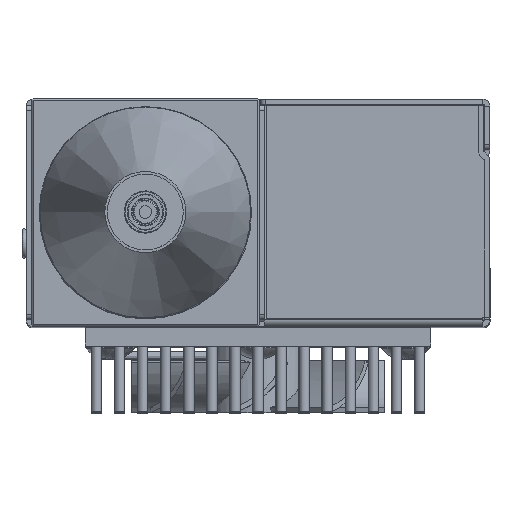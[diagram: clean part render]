
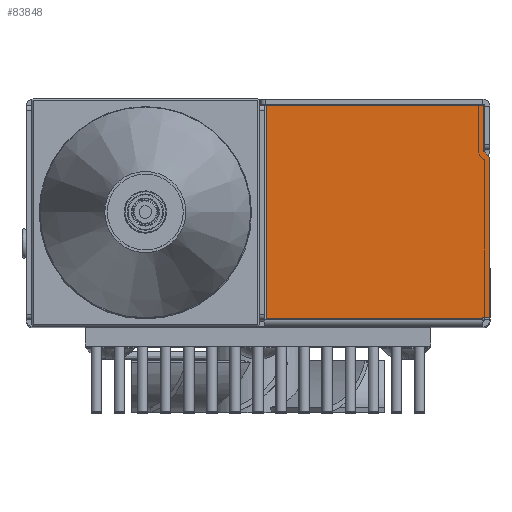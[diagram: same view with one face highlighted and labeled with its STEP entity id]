
A CAD part, top view. The second image highlights one B-rep face of the part: STEP entity #83848.
In plain terms, the highlighted planar face has unit normal (0, 0, 1).
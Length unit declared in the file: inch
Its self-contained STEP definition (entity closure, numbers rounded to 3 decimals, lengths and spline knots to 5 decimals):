
#2050 = LINE ( 'NONE', #47814, #83330 ) ;
#4127 = EDGE_CURVE ( 'NONE', #88291, #85200, #42036, .T. ) ;
#7247 = LINE ( 'NONE', #75378, #54759 ) ;
#7338 = VERTEX_POINT ( 'NONE', #79041 ) ;
#8069 = EDGE_CURVE ( 'NONE', #75909, #7338, #18427, .T. ) ;
#8612 = CARTESIAN_POINT ( 'NONE',  ( 2.0025, 0.3125, 0.05118 ) ) ;
#9313 = EDGE_CURVE ( 'NONE', #98248, #83296, #32963, .T. ) ;
#12506 = DIRECTION ( 'NONE',  ( 0., -1., 0. ) ) ;
#14499 = DIRECTION ( 'NONE',  ( -1., 0., 0. ) ) ;
#16874 = ORIENTED_EDGE ( 'NONE', *, *, #4127, .T. ) ;
#17083 = EDGE_CURVE ( 'NONE', #86913, #84553, #61911, .T. ) ;
#18105 = AXIS2_PLACEMENT_3D ( 'NONE', #97545, #66734, #14499 ) ;
#18427 = CIRCLE ( 'NONE', #26300, 0.041 ) ;
#19044 = ORIENTED_EDGE ( 'NONE', *, *, #66335, .F. ) ;
#19380 = VECTOR ( 'NONE', #25113, 39.37008 ) ;
#21413 = LINE ( 'NONE', #32181, #45541 ) ;
#23715 = VECTOR ( 'NONE', #72362, 39.37008 ) ;
#25113 = DIRECTION ( 'NONE',  ( 1., 0., 0. ) ) ;
#25974 = CARTESIAN_POINT ( 'NONE',  ( 2.04322, 0.6435, 0.05118 ) ) ;
#26300 = AXIS2_PLACEMENT_3D ( 'NONE', #8612, #38965, #69299 ) ;
#27617 = CARTESIAN_POINT ( 'NONE',  ( 2.00201, -0.6335, 0.05118 ) ) ;
#28156 = EDGE_CURVE ( 'NONE', #83296, #37208, #60971, .T. ) ;
#30063 = LINE ( 'NONE', #82735, #30957 ) ;
#30632 = EDGE_CURVE ( 'NONE', #98248, #48328, #7247, .T. ) ;
#30704 = CARTESIAN_POINT ( 'NONE',  ( 0.7165, -0.6335, 0.05118 ) ) ;
#30957 = VECTOR ( 'NONE', #59392, 39.37008 ) ;
#32181 = CARTESIAN_POINT ( 'NONE',  ( 0.7165, -0.6335, 0.05118 ) ) ;
#32411 = CARTESIAN_POINT ( 'NONE',  ( 2.0315, 0.3415, 0.05118 ) ) ;
#32896 = DIRECTION ( 'NONE',  ( 0., -1., 0. ) ) ;
#32963 = LINE ( 'NONE', #70258, #75817 ) ;
#33255 = CARTESIAN_POINT ( 'NONE',  ( 2.0075, 0.36963, 0.05118 ) ) ;
#35270 = CARTESIAN_POINT ( 'NONE',  ( 2.0075, 0.6385, 0.05118 ) ) ;
#35922 = EDGE_CURVE ( 'NONE', #86913, #85200, #2050, .T. ) ;
#37208 = VERTEX_POINT ( 'NONE', #84385 ) ;
#37593 = DIRECTION ( 'NONE',  ( -1., 0., 0. ) ) ;
#38068 = CARTESIAN_POINT ( 'NONE',  ( 2.0435, -0.61815, 0.05118 ) ) ;
#38965 = DIRECTION ( 'NONE',  ( 0., 0., -1. ) ) ;
#40194 = EDGE_CURVE ( 'NONE', #7338, #84553, #57283, .T. ) ;
#42036 = LINE ( 'NONE', #27617, #23715 ) ;
#42351 = ORIENTED_EDGE ( 'NONE', *, *, #8069, .F. ) ;
#45541 = VECTOR ( 'NONE', #46135, 39.37008 ) ;
#46135 = DIRECTION ( 'NONE',  ( 0., 1., 0. ) ) ;
#46240 = EDGE_CURVE ( 'NONE', #88291, #48328, #21413, .T. ) ;
#46358 = ORIENTED_EDGE ( 'NONE', *, *, #28156, .F. ) ;
#47814 = CARTESIAN_POINT ( 'NONE',  ( 2.00201, 0.6435, 0.05118 ) ) ;
#48328 = VERTEX_POINT ( 'NONE', #71229 ) ;
#48929 = VECTOR ( 'NONE', #12506, 39.37008 ) ;
#51334 = ORIENTED_EDGE ( 'NONE', *, *, #35922, .F. ) ;
#52561 = CARTESIAN_POINT ( 'NONE',  ( 2.00201, -0.61815, 0.05118 ) ) ;
#54394 = ORIENTED_EDGE ( 'NONE', *, *, #9313, .F. ) ;
#54759 = VECTOR ( 'NONE', #37593, 39.37008 ) ;
#57283 = LINE ( 'NONE', #25974, #48929 ) ;
#59392 = DIRECTION ( 'NONE',  ( 0.707, -0.707, 0. ) ) ;
#60971 = CIRCLE ( 'NONE', #18105, 0.01 ) ;
#61911 = LINE ( 'NONE', #38068, #19380 ) ;
#63443 = ORIENTED_EDGE ( 'NONE', *, *, #30632, .T. ) ;
#65093 = ORIENTED_EDGE ( 'NONE', *, *, #17083, .T. ) ;
#66335 = EDGE_CURVE ( 'NONE', #37208, #75909, #30063, .T. ) ;
#66734 = DIRECTION ( 'NONE',  ( 0., 0., 1. ) ) ;
#67565 = CARTESIAN_POINT ( 'NONE',  ( 2.04322, -0.61815, 0.05118 ) ) ;
#69299 = DIRECTION ( 'NONE',  ( -1., 0., 0. ) ) ;
#70258 = CARTESIAN_POINT ( 'NONE',  ( 2.0075, 0.6435, 0.05118 ) ) ;
#70350 = AXIS2_PLACEMENT_3D ( 'NONE', #72031, #73019, #95379 ) ;
#71229 = CARTESIAN_POINT ( 'NONE',  ( 0.7165, 0.6385, 0.05118 ) ) ;
#72031 = CARTESIAN_POINT ( 'NONE',  ( 2.0435, 0.6435, 0.05118 ) ) ;
#72362 = DIRECTION ( 'NONE',  ( 1., 0., 0. ) ) ;
#73019 = DIRECTION ( 'NONE',  ( 0., 0., -1. ) ) ;
#75378 = CARTESIAN_POINT ( 'NONE',  ( 2.0435, 0.6385, 0.05118 ) ) ;
#75817 = VECTOR ( 'NONE', #76733, 39.37008 ) ;
#75909 = VERTEX_POINT ( 'NONE', #32411 ) ;
#76733 = DIRECTION ( 'NONE',  ( 0., -1., 0. ) ) ;
#78178 = ORIENTED_EDGE ( 'NONE', *, *, #46240, .F. ) ;
#79041 = CARTESIAN_POINT ( 'NONE',  ( 2.04322, 0.31729, 0.05118 ) ) ;
#82735 = CARTESIAN_POINT ( 'NONE',  ( 1.8865, 0.4865, 0.05118 ) ) ;
#83296 = VERTEX_POINT ( 'NONE', #33255 ) ;
#83330 = VECTOR ( 'NONE', #32896, 39.37008 ) ;
#83734 = ORIENTED_EDGE ( 'NONE', *, *, #40194, .F. ) ;
#83848 = ADVANCED_FACE ( 'NONE', ( #87421 ), #87912, .F. ) ;
#84385 = CARTESIAN_POINT ( 'NONE',  ( 2.01043, 0.36256, 0.05118 ) ) ;
#84553 = VERTEX_POINT ( 'NONE', #67565 ) ;
#85200 = VERTEX_POINT ( 'NONE', #87381 ) ;
#86609 = EDGE_LOOP ( 'NONE', ( #54394, #63443, #78178, #16874, #51334, #65093, #83734, #42351, #19044, #46358 ) ) ;
#86913 = VERTEX_POINT ( 'NONE', #52561 ) ;
#87381 = CARTESIAN_POINT ( 'NONE',  ( 2.00201, -0.6335, 0.05118 ) ) ;
#87421 = FACE_OUTER_BOUND ( 'NONE', #86609, .T. ) ;
#87912 = PLANE ( 'NONE',  #70350 ) ;
#88291 = VERTEX_POINT ( 'NONE', #30704 ) ;
#95379 = DIRECTION ( 'NONE',  ( -1., 0., 0. ) ) ;
#97545 = CARTESIAN_POINT ( 'NONE',  ( 2.0175, 0.36963, 0.05118 ) ) ;
#98248 = VERTEX_POINT ( 'NONE', #35270 ) ;
